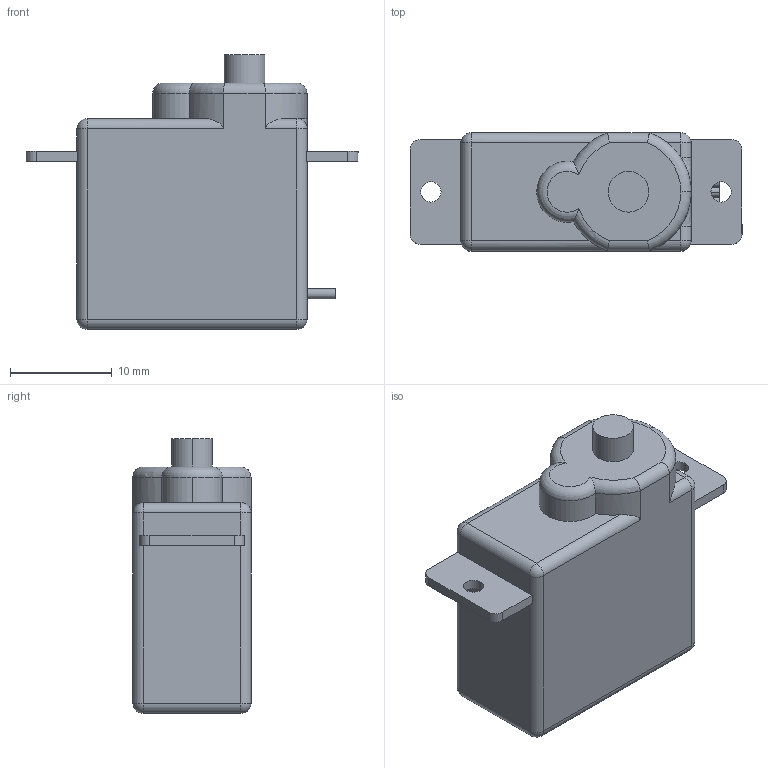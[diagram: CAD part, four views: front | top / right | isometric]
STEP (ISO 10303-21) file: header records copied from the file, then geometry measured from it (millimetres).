
FILE_DESCRIPTION (( 'STEP AP214' ), '1' );
FILE_NAME ('Hi-Tech HS5055MG Digital Servo.STEP', '2018-06-21T18:58:23', ( '' ), ( '' ), 'SwSTEP 2.0', 'SolidWorks 2016', '' );
FILE_SCHEMA (( 'AUTOMOTIVE_DESIGN' ));
Length unit declared in the file: millimetre
Products named in the file (1): Hi-Tech HS5055MG Digital Servo
Bounding box: 32.6 x 11.6 x 27 mm (x, y, z)
Volume: 5973.6 mm3; surface area: 2263 mm2
Topology: 1 solids, 1 shells, 83 faces, 214 edges, 125 vertices
Faces by surface type: cylinder 41, plane 27, sphere 8, torus 5, bspline 2
Entity records: 2774 total; most frequent: CARTESIAN_POINT 577, DIRECTION 448, ORIENTED_EDGE 408, EDGE_CURVE 204, AXIS2_PLACEMENT_3D 174, VERTEX_POINT 125, VECTOR 100, LINE 100
